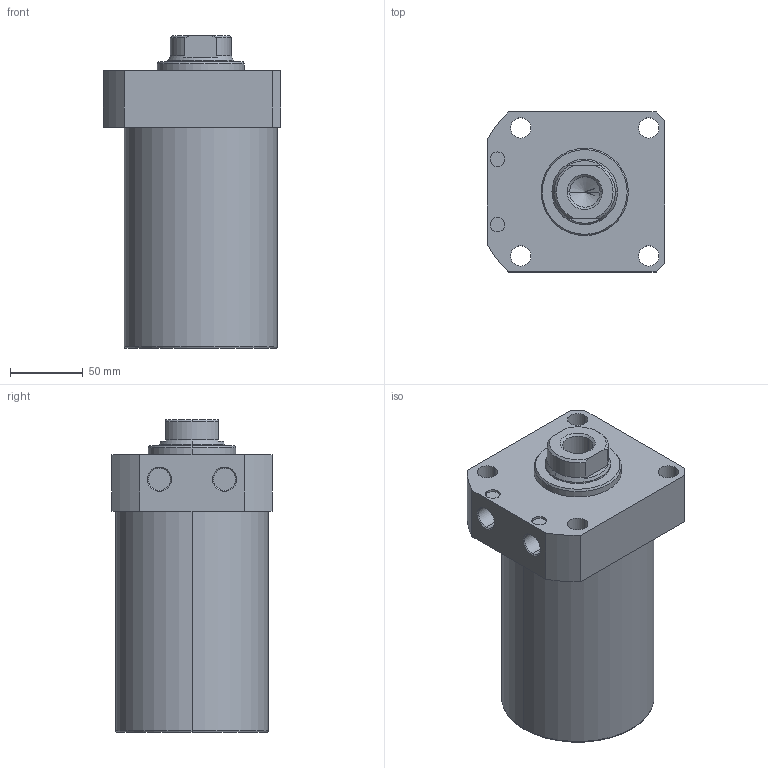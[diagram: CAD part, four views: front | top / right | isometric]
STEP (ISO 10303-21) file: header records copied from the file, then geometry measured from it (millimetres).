
FILE_DESCRIPTION (( 'STEP AP203' ), '1' );
FILE_NAME ('CLLR-105CA-105.STEP', '2019-12-18T07:10:43', ( '' ), ( '' ), 'SwSTEP 2.0', 'SolidWorks 2015', '' );
FILE_SCHEMA (( 'CONFIG_CONTROL_DESIGN' ));
Length unit declared in the file: millimetre
Products named in the file (1): CLLR-105CA-105
Bounding box: 122 x 110 x 215 mm (x, y, z)
Volume: 1813328.7 mm3; surface area: 108725.1 mm2
Topology: 1 solids, 1 shells, 65 faces, 153 edges, 96 vertices
Faces by surface type: cylinder 29, plane 19, cone 15, torus 2
Entity records: 1971 total; most frequent: DIRECTION 352, CARTESIAN_POINT 337, ORIENTED_EDGE 302, EDGE_CURVE 151, AXIS2_PLACEMENT_3D 143, VERTEX_POINT 96, EDGE_LOOP 81, CIRCLE 77
